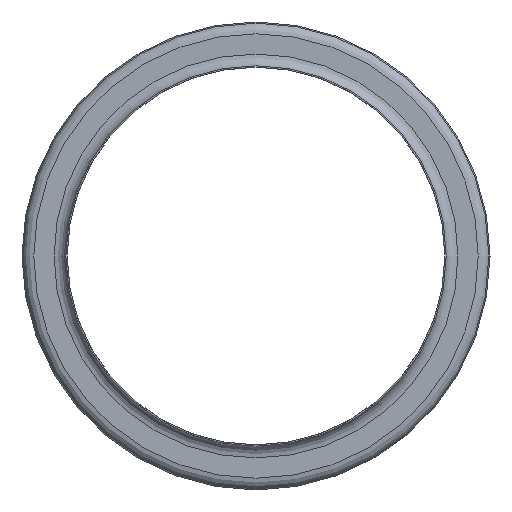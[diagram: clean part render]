
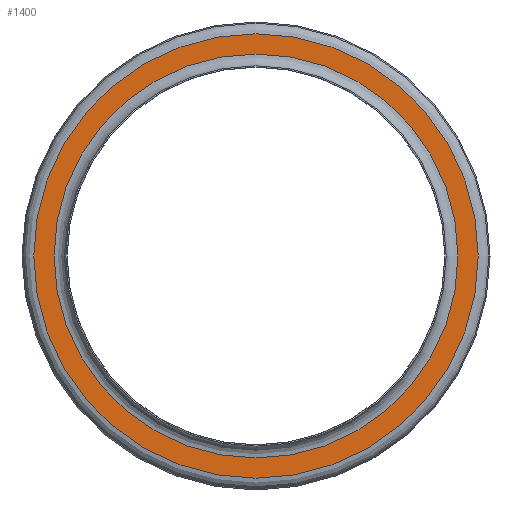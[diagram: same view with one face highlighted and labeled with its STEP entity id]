
A CAD part, front view. The second image highlights one B-rep face of the part: STEP entity #1400.
In plain terms, the highlighted planar face has unit normal (0, -1, 0).
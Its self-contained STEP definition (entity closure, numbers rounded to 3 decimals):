
#1400 = ADVANCED_FACE( '', ( #3917, #3918 ), #3919, .T. );
#3917 = FACE_OUTER_BOUND( '', #8420, .T. );
#3918 = FACE_BOUND( '', #8421, .T. );
#3919 = PLANE( '', #8422 );
#8420 = EDGE_LOOP( '', ( #13169 ) );
#8421 = EDGE_LOOP( '', ( #13170 ) );
#8422 = AXIS2_PLACEMENT_3D( '', #13171, #13172, #13173 );
#13169 = ORIENTED_EDGE( '', *, *, #19523, .T. );
#13170 = ORIENTED_EDGE( '', *, *, #19524, .F. );
#13171 = CARTESIAN_POINT( '', ( 0., 2.016, 34.516 ) );
#13172 = DIRECTION( '', ( 0., -1., 0. ) );
#13173 = DIRECTION( '', ( 0., 0., -1. ) );
#19523 = EDGE_CURVE( '', #22011, #22011, #22012, .T. );
#19524 = EDGE_CURVE( '', #22013, #22013, #22014, .T. );
#22011 = VERTEX_POINT( '', #25383 );
#22012 = CIRCLE( '', #25384, 37.984 );
#22013 = VERTEX_POINT( '', #25385 );
#22014 = CIRCLE( '', #25386, 34.516 );
#25383 = CARTESIAN_POINT( '', ( 0., 2.016, -37.984 ) );
#25384 = AXIS2_PLACEMENT_3D( '', #28868, #28869, #28870 );
#25385 = CARTESIAN_POINT( '', ( 0., 2.016, -34.516 ) );
#25386 = AXIS2_PLACEMENT_3D( '', #28871, #28872, #28873 );
#28868 = CARTESIAN_POINT( '', ( 0., 2.016, 0. ) );
#28869 = DIRECTION( '', ( 0., -1., 0. ) );
#28870 = DIRECTION( '', ( 0., 0., -1. ) );
#28871 = CARTESIAN_POINT( '', ( 0., 2.016, 0. ) );
#28872 = DIRECTION( '', ( 0., -1., 0. ) );
#28873 = DIRECTION( '', ( 0., 0., -1. ) );
